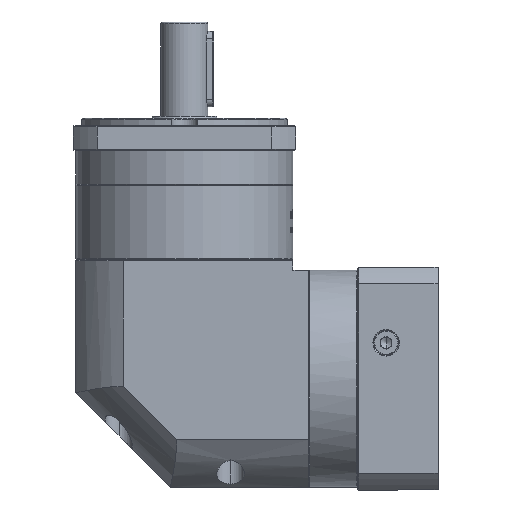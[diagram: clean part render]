
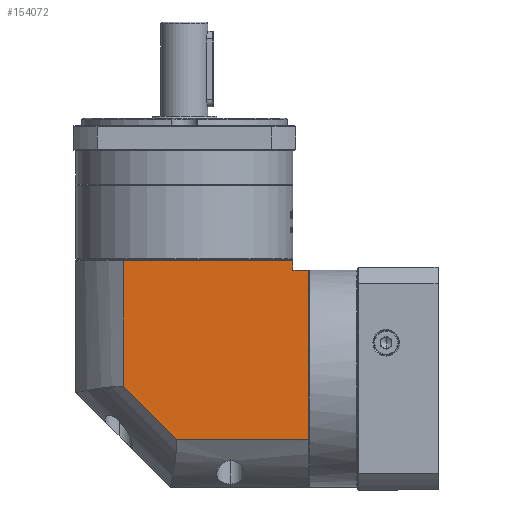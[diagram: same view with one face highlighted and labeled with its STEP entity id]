
A CAD part, left-side view. The second image highlights one B-rep face of the part: STEP entity #154072.
In plain terms, the highlighted planar face has unit normal (-1, 0, 0).
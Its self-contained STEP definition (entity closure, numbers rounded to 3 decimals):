
#1647 = EDGE_CURVE ( 'NONE', #108089, #75698, #67993, .T. ) ;
#4310 = CARTESIAN_POINT ( 'NONE',  ( -266.518, -97.933, 82.796 ) ) ;
#12539 = VECTOR ( 'NONE', #144242, 1000. ) ;
#13348 = VERTEX_POINT ( 'NONE', #96577 ) ;
#13904 = DIRECTION ( 'NONE',  ( 1., 0., 0. ) ) ;
#22072 = VERTEX_POINT ( 'NONE', #34975 ) ;
#22157 = DIRECTION ( 'NONE',  ( 0., 0.707, 0.707 ) ) ;
#22588 = CARTESIAN_POINT ( 'NONE',  ( -266.518, -97.933, 94.296 ) ) ;
#23359 = ORIENTED_EDGE ( 'NONE', *, *, #84486, .F. ) ;
#28133 = VERTEX_POINT ( 'NONE', #4310 ) ;
#32456 = CARTESIAN_POINT ( 'NONE',  ( -266.518, -89.533, 87.796 ) ) ;
#34712 = CARTESIAN_POINT ( 'NONE',  ( -266.518, 0.367, 94.296 ) ) ;
#34975 = CARTESIAN_POINT ( 'NONE',  ( -266.518, -27.971, -7.104 ) ) ;
#38748 = LINE ( 'NONE', #34712, #157790 ) ;
#47869 = DIRECTION ( 'NONE',  ( 0., 0., 1. ) ) ;
#49911 = EDGE_LOOP ( 'NONE', ( #79822, #77046, #133227, #23359, #81386, #98109, #80783 ) ) ;
#52416 = CARTESIAN_POINT ( 'NONE',  ( -266.518, -89.533, 82.796 ) ) ;
#58504 = EDGE_CURVE ( 'NONE', #28133, #128367, #157961, .T. ) ;
#58818 = FACE_OUTER_BOUND ( 'NONE', #49911, .T. ) ;
#59725 = VECTOR ( 'NONE', #111762, 1000. ) ;
#61616 = CARTESIAN_POINT ( 'NONE',  ( -266.518, -27.971, -7.104 ) ) ;
#62244 = VECTOR ( 'NONE', #22157, 1000. ) ;
#67993 = LINE ( 'NONE', #163840, #59725 ) ;
#68893 = CARTESIAN_POINT ( 'NONE',  ( -266.518, -97.933, -7.104 ) ) ;
#69571 = LINE ( 'NONE', #158850, #90269 ) ;
#69791 = CARTESIAN_POINT ( 'NONE',  ( -266.518, -89.533, 82.796 ) ) ;
#72588 = EDGE_CURVE ( 'NONE', #13348, #108089, #38748, .T. ) ;
#75504 = CARTESIAN_POINT ( 'NONE',  ( -266.518, 0.367, 87.796 ) ) ;
#75698 = VERTEX_POINT ( 'NONE', #32456 ) ;
#77046 = ORIENTED_EDGE ( 'NONE', *, *, #93138, .F. ) ;
#78443 = EDGE_CURVE ( 'NONE', #128367, #75698, #69571, .T. ) ;
#79822 = ORIENTED_EDGE ( 'NONE', *, *, #72588, .F. ) ;
#80783 = ORIENTED_EDGE ( 'NONE', *, *, #1647, .F. ) ;
#81386 = ORIENTED_EDGE ( 'NONE', *, *, #58504, .T. ) ;
#82121 = VECTOR ( 'NONE', #133889, 1000. ) ;
#84486 = EDGE_CURVE ( 'NONE', #28133, #107213, #162775, .T. ) ;
#90269 = VECTOR ( 'NONE', #145655, 1000. ) ;
#93138 = EDGE_CURVE ( 'NONE', #22072, #13348, #129735, .T. ) ;
#93670 = AXIS2_PLACEMENT_3D ( 'NONE', #143270, #13904, #118069 ) ;
#96577 = CARTESIAN_POINT ( 'NONE',  ( -266.518, 0.367, 21.234 ) ) ;
#98109 = ORIENTED_EDGE ( 'NONE', *, *, #78443, .T. ) ;
#107213 = VERTEX_POINT ( 'NONE', #68893 ) ;
#108089 = VERTEX_POINT ( 'NONE', #75504 ) ;
#111762 = DIRECTION ( 'NONE',  ( 0., -1., 0. ) ) ;
#118069 = DIRECTION ( 'NONE',  ( 0., 1., 0. ) ) ;
#118646 = PLANE ( 'NONE',  #93670 ) ;
#127856 = DIRECTION ( 'NONE',  ( 0., 0., -1. ) ) ;
#127903 = VECTOR ( 'NONE', #127856, 1000. ) ;
#128367 = VERTEX_POINT ( 'NONE', #52416 ) ;
#129735 = LINE ( 'NONE', #61616, #62244 ) ;
#133227 = ORIENTED_EDGE ( 'NONE', *, *, #162470, .F. ) ;
#133889 = DIRECTION ( 'NONE',  ( 0., 1., 0. ) ) ;
#143270 = CARTESIAN_POINT ( 'NONE',  ( -266.518, 25.467, 94.296 ) ) ;
#144242 = DIRECTION ( 'NONE',  ( 0., 1., 0. ) ) ;
#145655 = DIRECTION ( 'NONE',  ( 0., 0., 1. ) ) ;
#154072 = ADVANCED_FACE ( 'NONE', ( #58818 ), #118646, .F. ) ;
#157790 = VECTOR ( 'NONE', #47869, 1000. ) ;
#157961 = LINE ( 'NONE', #69791, #12539 ) ;
#158850 = CARTESIAN_POINT ( 'NONE',  ( -266.518, -89.533, -32.204 ) ) ;
#159201 = CARTESIAN_POINT ( 'NONE',  ( -266.518, 25.467, -7.104 ) ) ;
#162470 = EDGE_CURVE ( 'NONE', #107213, #22072, #163992, .T. ) ;
#162775 = LINE ( 'NONE', #22588, #127903 ) ;
#163840 = CARTESIAN_POINT ( 'NONE',  ( -266.518, 25.467, 87.796 ) ) ;
#163992 = LINE ( 'NONE', #159201, #82121 ) ;
